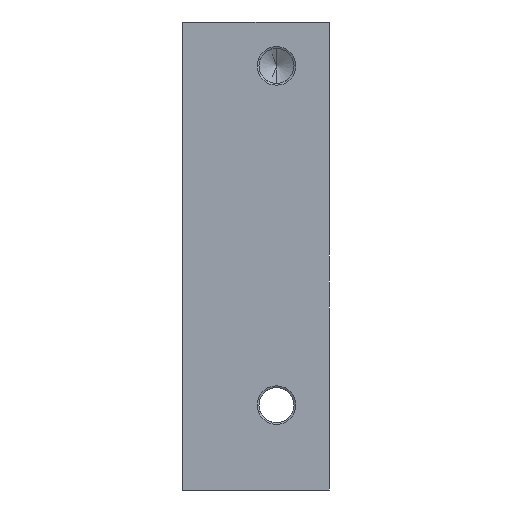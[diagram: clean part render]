
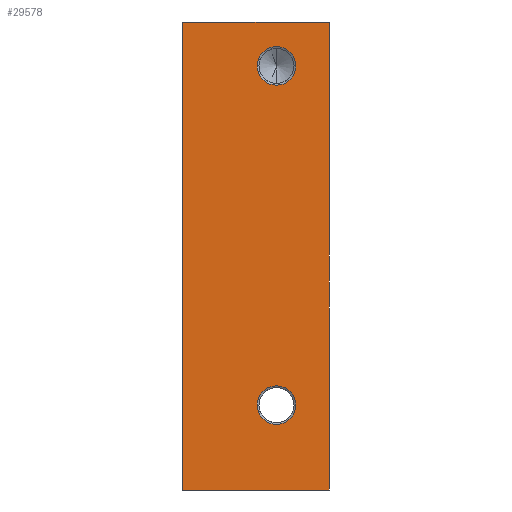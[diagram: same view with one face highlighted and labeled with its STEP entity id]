
A CAD part, front view. The second image highlights one B-rep face of the part: STEP entity #29578.
In plain terms, the highlighted planar face has unit normal (0, -1, 0).
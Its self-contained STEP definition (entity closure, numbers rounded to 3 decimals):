
#308 = EDGE_LOOP ( 'NONE', ( #20736, #1321 ) ) ;
#1183 = FACE_BOUND ( 'NONE', #308, .T. ) ;
#1321 = ORIENTED_EDGE ( 'NONE', *, *, #13163, .F. ) ;
#1682 = CARTESIAN_POINT ( 'NONE',  ( 0., -70., 40. ) ) ;
#1730 = ORIENTED_EDGE ( 'NONE', *, *, #9302, .F. ) ;
#3271 = ORIENTED_EDGE ( 'NONE', *, *, #27307, .F. ) ;
#3974 = DIRECTION ( 'NONE',  ( 0., -1., 0. ) ) ;
#4734 = DIRECTION ( 'NONE',  ( 0., 0., 1. ) ) ;
#5217 = CARTESIAN_POINT ( 'NONE',  ( -9., -70., -28.8 ) ) ;
#5621 = EDGE_LOOP ( 'NONE', ( #9978, #3271 ) ) ;
#6963 = CARTESIAN_POINT ( 'NONE',  ( 0., -70., 40. ) ) ;
#7144 = LINE ( 'NONE', #6963, #28295 ) ;
#7287 = VERTEX_POINT ( 'NONE', #32918 ) ;
#7310 = CIRCLE ( 'NONE', #24440, 3.3 ) ;
#7327 = ORIENTED_EDGE ( 'NONE', *, *, #30127, .T. ) ;
#7443 = AXIS2_PLACEMENT_3D ( 'NONE', #17673, #3974, #28795 ) ;
#7837 = CIRCLE ( 'NONE', #34959, 3.3 ) ;
#8583 = DIRECTION ( 'NONE',  ( -1., 0., 0. ) ) ;
#9195 = EDGE_CURVE ( 'NONE', #24482, #13648, #7144, .T. ) ;
#9302 = EDGE_CURVE ( 'NONE', #29114, #13648, #22106, .T. ) ;
#9452 = EDGE_CURVE ( 'NONE', #33603, #27175, #10533, .T. ) ;
#9770 = CIRCLE ( 'NONE', #16844, 3.3 ) ;
#9978 = ORIENTED_EDGE ( 'NONE', *, *, #20382, .F. ) ;
#10533 = CIRCLE ( 'NONE', #22298, 3.3 ) ;
#10626 = DIRECTION ( 'NONE',  ( 0., 0., -1. ) ) ;
#10888 = DIRECTION ( 'NONE',  ( 0., 0., -1. ) ) ;
#11405 = DIRECTION ( 'NONE',  ( 0., 0., -1. ) ) ;
#11526 = CARTESIAN_POINT ( 'NONE',  ( -9., -70., 29.2 ) ) ;
#13008 = LINE ( 'NONE', #15586, #26108 ) ;
#13163 = EDGE_CURVE ( 'NONE', #27175, #33603, #7837, .T. ) ;
#13557 = CARTESIAN_POINT ( 'NONE',  ( 0., -70., -40. ) ) ;
#13648 = VERTEX_POINT ( 'NONE', #20056 ) ;
#15266 = FACE_BOUND ( 'NONE', #5621, .T. ) ;
#15436 = FACE_OUTER_BOUND ( 'NONE', #21371, .T. ) ;
#15441 = EDGE_CURVE ( 'NONE', #28605, #29114, #24826, .T. ) ;
#15586 = CARTESIAN_POINT ( 'NONE',  ( 0., -70., -40. ) ) ;
#16148 = DIRECTION ( 'NONE',  ( 0., 0., 1. ) ) ;
#16570 = DIRECTION ( 'NONE',  ( 0., -1., 0. ) ) ;
#16844 = AXIS2_PLACEMENT_3D ( 'NONE', #33335, #22251, #10626 ) ;
#17375 = ORIENTED_EDGE ( 'NONE', *, *, #9195, .T. ) ;
#17673 = CARTESIAN_POINT ( 'NONE',  ( 0., -70., -40. ) ) ;
#17739 = ORIENTED_EDGE ( 'NONE', *, *, #15441, .F. ) ;
#18376 = CARTESIAN_POINT ( 'NONE',  ( -9., -70., -22.2 ) ) ;
#18777 = VERTEX_POINT ( 'NONE', #11526 ) ;
#19009 = DIRECTION ( 'NONE',  ( 0., -1., 0. ) ) ;
#19952 = CARTESIAN_POINT ( 'NONE',  ( -25., -70., -40. ) ) ;
#20056 = CARTESIAN_POINT ( 'NONE',  ( -25., -70., 40. ) ) ;
#20382 = EDGE_CURVE ( 'NONE', #18777, #7287, #7310, .T. ) ;
#20736 = ORIENTED_EDGE ( 'NONE', *, *, #9452, .F. ) ;
#21371 = EDGE_LOOP ( 'NONE', ( #1730, #17739, #7327, #17375 ) ) ;
#22106 = LINE ( 'NONE', #36160, #25943 ) ;
#22251 = DIRECTION ( 'NONE',  ( 0., -1., 0. ) ) ;
#22298 = AXIS2_PLACEMENT_3D ( 'NONE', #25083, #16570, #11405 ) ;
#24440 = AXIS2_PLACEMENT_3D ( 'NONE', #29385, #32140, #31784 ) ;
#24482 = VERTEX_POINT ( 'NONE', #1682 ) ;
#24826 = LINE ( 'NONE', #13557, #32520 ) ;
#25083 = CARTESIAN_POINT ( 'NONE',  ( -9., -70., -25.5 ) ) ;
#25943 = VECTOR ( 'NONE', #4734, 1000. ) ;
#26108 = VECTOR ( 'NONE', #16148, 1000. ) ;
#27175 = VERTEX_POINT ( 'NONE', #18376 ) ;
#27307 = EDGE_CURVE ( 'NONE', #7287, #18777, #9770, .T. ) ;
#28295 = VECTOR ( 'NONE', #34877, 1000. ) ;
#28605 = VERTEX_POINT ( 'NONE', #32568 ) ;
#28795 = DIRECTION ( 'NONE',  ( 1., 0., 0. ) ) ;
#29114 = VERTEX_POINT ( 'NONE', #19952 ) ;
#29337 = PLANE ( 'NONE',  #7443 ) ;
#29385 = CARTESIAN_POINT ( 'NONE',  ( -9., -70., 32.5 ) ) ;
#29578 = ADVANCED_FACE ( 'NONE', ( #1183, #15266, #15436 ), #29337, .T. ) ;
#30127 = EDGE_CURVE ( 'NONE', #28605, #24482, #13008, .T. ) ;
#31784 = DIRECTION ( 'NONE',  ( 0., 0., -1. ) ) ;
#32140 = DIRECTION ( 'NONE',  ( 0., -1., 0. ) ) ;
#32145 = CARTESIAN_POINT ( 'NONE',  ( -9., -70., -25.5 ) ) ;
#32520 = VECTOR ( 'NONE', #8583, 1000. ) ;
#32568 = CARTESIAN_POINT ( 'NONE',  ( 0., -70., -40. ) ) ;
#32918 = CARTESIAN_POINT ( 'NONE',  ( -9., -70., 35.8 ) ) ;
#33335 = CARTESIAN_POINT ( 'NONE',  ( -9., -70., 32.5 ) ) ;
#33603 = VERTEX_POINT ( 'NONE', #5217 ) ;
#34877 = DIRECTION ( 'NONE',  ( -1., 0., 0. ) ) ;
#34959 = AXIS2_PLACEMENT_3D ( 'NONE', #32145, #19009, #10888 ) ;
#36160 = CARTESIAN_POINT ( 'NONE',  ( -25., -70., -40. ) ) ;
